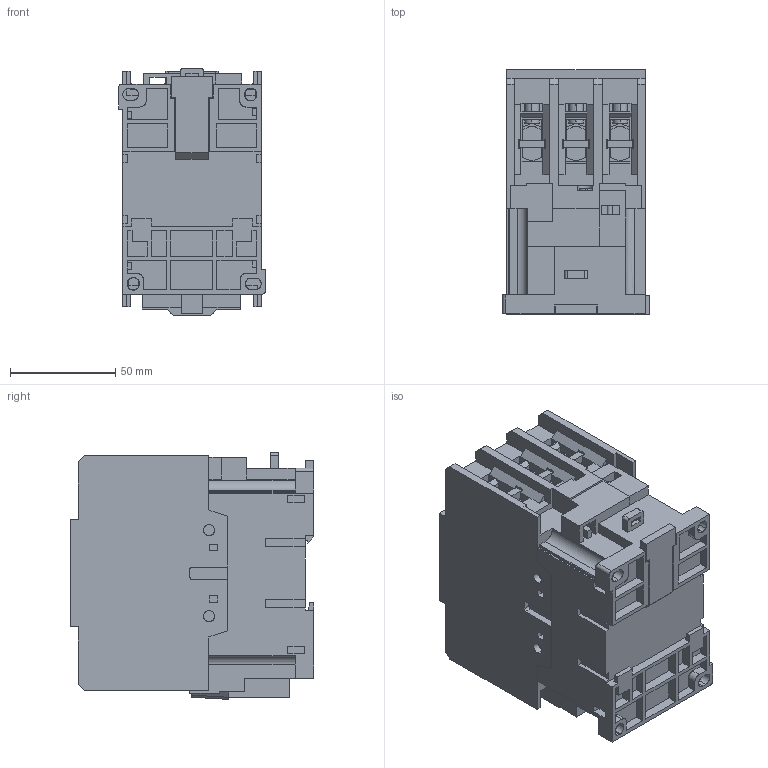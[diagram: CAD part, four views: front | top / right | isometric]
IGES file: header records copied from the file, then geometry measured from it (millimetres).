
Start section: SolidWorks IGES file using analytic representation for surfaces
Global section: file name: \\Brjgs100\dfsweg\GROUPS\BR_SC_JGS_WA_TECNICO\ENG\Usuarios\Rodrigob\conversão\contatores\Produto\CWL50...80\CWL50...95.IGS; native system: SolidWorks 2018; preprocessor: SolidWorks 2018; author: rodrigob; date: 190625.073031; units: millimetre
Bounding box: 69.7 x 116 x 117.3 mm (x, y, z)
Surface area: 90989.4 mm2 (no closed solid volume)
Topology: 0 solids, 0 shells, 1192 faces, 9236 edges, 9236 vertices
Faces by surface type: bspline 1055, revolution 137
